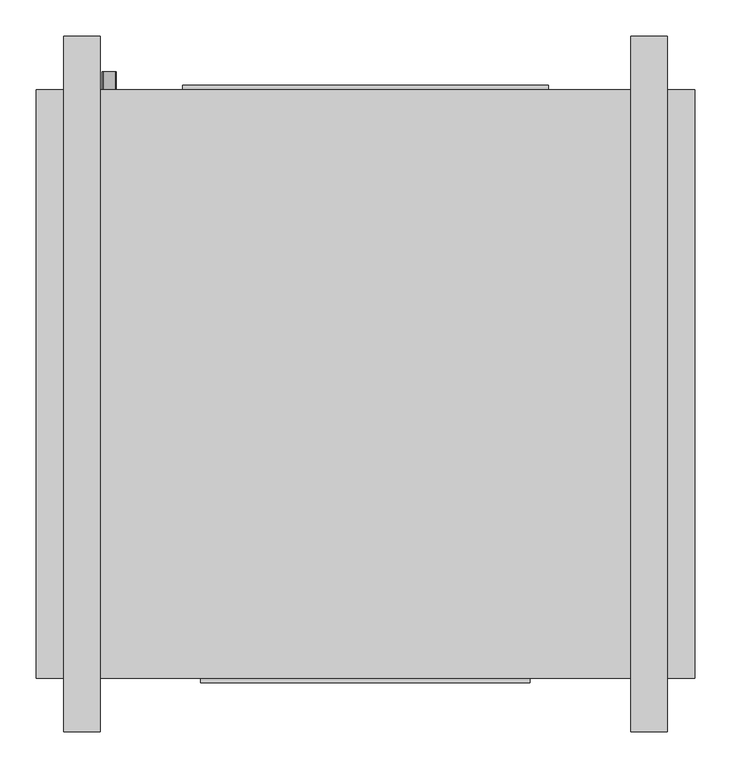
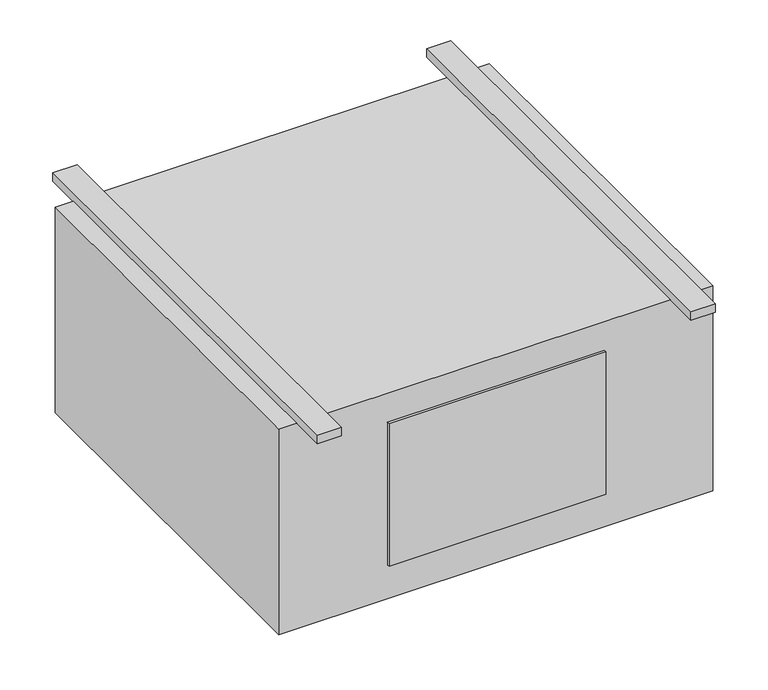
"""IFC4 building model written with IfcOpenShell, lengths in millimetres: proxy geometry, Exposed_High_Capacity_Horizontal_Cabinet_Fan_Coil_Unit_-_42DFA_-_CARRIER_-_2-Pipe_Cool-EHeat_LH_2022 : Size 08 - 277v/60Hz/1Ph - 6 Row 6.0kW."""

from ifc_helpers import new_model, si_unit, point, frame, frame_2d, origin, origin_with_axes, place, context, project, spatial, polyline, circle_curve, trimmed, segment, composite_curve, outline, extrude, source, transform, mapped, element, save


def mechanical_equipment_42f91bbd(model_context):
    return source(origin(), model_context, "Body", "SweptSolid", [
        extrude(outline(composite_curve([segment(trimmed(circle_curve(frame_2d((-406.4, -203.2)), 9.525), [point((-406.4, -212.725))], [point((-406.4, -193.675))], False, "CARTESIAN"), True, "CONTINUOUS"), segment(trimmed(circle_curve(frame_2d((-406.4, -203.2)), 9.525), [point((-406.4, -193.675))], [point((-406.4, -212.725))], False, "CARTESIAN"), True, "CONTINUOUS")], self_intersect=False)), frame((0.0, 169.8625, 0.0), z_axis=(0.0, 1.0, 0.0), x_axis=(0.0, 0.0, 1.0)), (0.0, 0.0, 1.0), 25.4),
        extrude(outline(composite_curve([segment(trimmed(circle_curve(frame_2d((-330.2, -203.2)), 7.9375), [point((-330.2, -211.1375))], [point((-330.2, -195.2625))], False, "CARTESIAN"), True, "CONTINUOUS"), segment(trimmed(circle_curve(frame_2d((-330.2, -203.2)), 7.9375), [point((-330.2, -195.2625))], [point((-330.2, -211.1375))], False, "CARTESIAN"), True, "CONTINUOUS")], self_intersect=False)), frame((0.0, 169.8625, 0.0), z_axis=(0.0, 1.0, 0.0), x_axis=(0.0, 0.0, 1.0)), (0.0, 0.0, 1.0), 25.4),
        extrude(outline(composite_curve([segment(trimmed(circle_curve(frame_2d((-254.0, -203.2)), 7.9375), [point((-254.0, -211.1375))], [point((-254.0, -195.2625))], False, "CARTESIAN"), True, "CONTINUOUS"), segment(trimmed(circle_curve(frame_2d((-254.0, -203.2)), 7.9375), [point((-254.0, -195.2625))], [point((-254.0, -211.1375))], False, "CARTESIAN"), True, "CONTINUOUS")], self_intersect=False)), frame((0.0, 169.8625, 0.0), z_axis=(0.0, 1.0, 0.0), x_axis=(0.0, 0.0, 1.0)), (0.0, 0.0, 1.0), 25.4),
        extrude(outline(polyline([(609.6, 169.8625), (609.6, -646.1125), (-304.8, -646.1125), (-304.8, 169.8625), (609.6, 169.8625)])), frame((0.0, 0.0, -457.2), z_axis=(0.0, 0.0, 1.0), x_axis=(1.0, 0.0, 0.0)), (0.0, 0.0, 1.0), 457.2),
        extrude(outline(polyline([(-101.6, 176.2125), (406.4, 176.2125), (406.4, 169.8625), (-101.6, 169.8625), (-101.6, 176.2125)])), frame((0.0, 0.0, -381.0), z_axis=(0.0, 0.0, 1.0), x_axis=(1.0, 0.0, 0.0)), (0.0, 0.0, 1.0), 355.6),
        extrude(outline(polyline([(-215.9, 244.475), (-215.9, -720.725), (-266.7, -720.725), (-266.7, 244.475), (-215.9, 244.475)])), origin_with_axes(), (0.0, 0.0, 1.0), 19.05),
        extrude(outline(polyline([(571.5, 244.475), (571.5, -720.725), (520.7, -720.725), (520.7, 244.475), (571.5, 244.475)])), origin_with_axes(), (0.0, 0.0, 1.0), 19.05),
        extrude(outline(polyline([(381.0, -652.4625), (-76.2, -652.4625), (-76.2, -646.1125), (381.0, -646.1125), (381.0, -652.4625)])), frame((0.0, 0.0, -381.0), z_axis=(0.0, 0.0, 1.0), x_axis=(1.0, 0.0, 0.0)), (0.0, 0.0, 1.0), 317.5),
    ])


if __name__ == "__main__":
    model = new_model("IFC4")
    model_context = context("Model", 3, world=origin())
    ifc_project = project(units=[si_unit("LENGTHUNIT", "METRE", prefix="MILLI")], contexts=[model_context])
    site = spatial("IfcSite", under=ifc_project)
    building = spatial("IfcBuilding", under=site)
    placement = place(None, origin())
    mechanical_equipment_shape = mechanical_equipment_42f91bbd(model_context)
    element("IfcBuildingElementProxy", 1, Name="Exposed_High_Capacity_Horizontal_Cabinet_Fan_Coil_Unit_-_42DFA_-_CARRIER_-_2-Pipe_Cool-EHeat_LH_2022 : Size 08 - 277v/60Hz/1Ph - 6 Row 6.0kW", ObjectType="Exposed_High_Capacity_Horizontal_Cabinet_Fan_Coil_Unit_-_42DFA_-_CARRIER_-_2-Pipe_Cool-EHeat_LH_2022 : Size 08 - 277v/60Hz/1Ph - 6 Row 6.0kW", at=placement, inside=building, context=model_context, shape_type="MappedRepresentation", body=[
        mapped(mechanical_equipment_shape, transform((0.0, 0.0, 0.0), x_axis=(1.0, 0.0, 0.0), y_axis=(0.0, 1.0, 0.0), z_axis=(0.0, 0.0, 1.0))),
    ])
    save(model, "model.ifc")
